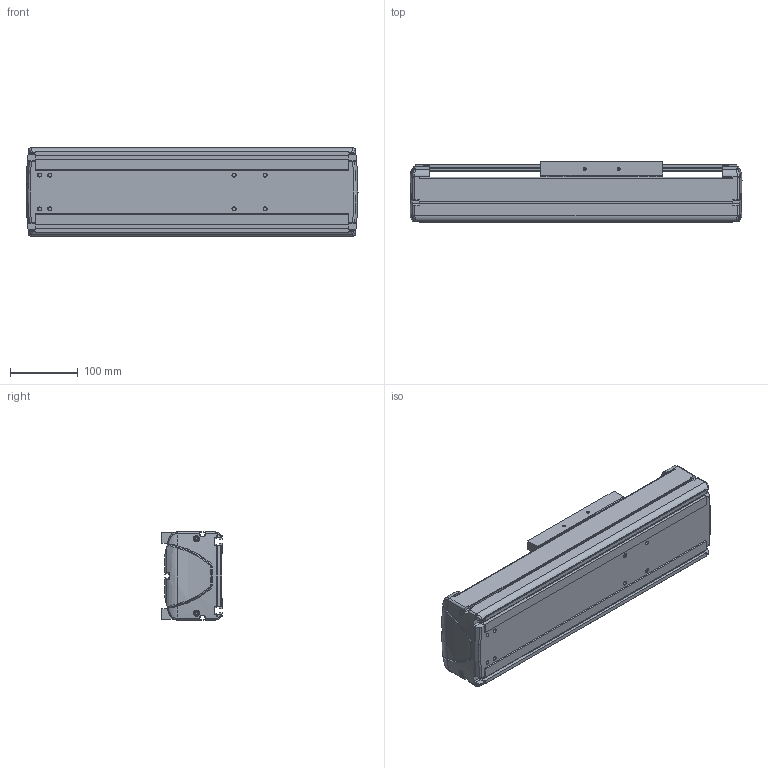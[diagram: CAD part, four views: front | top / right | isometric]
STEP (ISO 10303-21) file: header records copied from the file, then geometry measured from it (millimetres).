
FILE_DESCRIPTION((''),'2;1');
FILE_NAME('BE30E-ST-L_N-15_IGS_PRT','2017-06-17T',(' '),(''),'PRO/ENGINEER BY PARAMETRIC TECHNOLOGY CORPORATION, 2015030','PRO/ENGINEER BY PARAMETRIC TECHNOLOGY CORPORATION, 2015030','');
FILE_SCHEMA(('CONFIG_CONTROL_DESIGN'));
Length unit declared in the file: millimetre
Products named in the file (1): BE30E-ST-L_N-15_IGS_PRT
Bounding box: 490 x 89.8 x 130 mm (x, y, z)
Volume: 1864638.9 mm3; surface area: 660297.5 mm2
Topology: 2 solids, 65 shells, 1293 faces, 3453 edges, 2246 vertices
Faces by surface type: plane 600, cylinder 535, bspline 58, torus 46, cone 30, sphere 24
Entity records: 43385 total; most frequent: CARTESIAN_POINT 11078, DIRECTION 6640, ORIENTED_EDGE 6614, EDGE_CURVE 3433, AXIS2_PLACEMENT_3D 2365, VERTEX_POINT 2246, VECTOR 1910, LINE 1910
